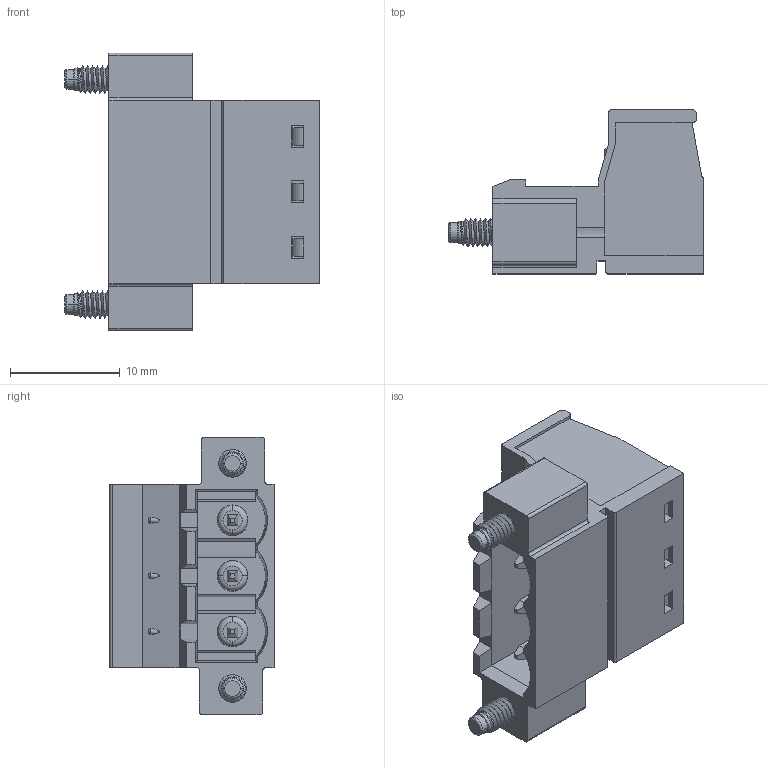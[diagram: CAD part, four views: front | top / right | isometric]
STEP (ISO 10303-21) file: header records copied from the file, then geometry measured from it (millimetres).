
FILE_DESCRIPTION((''),'2;1');
FILE_NAME('V8035152000AG','2017-02-18T',('shqun'),(''),'CREO PARAMETRIC BY PTC INC, 2014500','CREO PARAMETRIC BY PTC INC, 2014500','');
FILE_SCHEMA(('CONFIG_CONTROL_DESIGN'));
Length unit declared in the file: millimetre
Products named in the file (1): V8035152000AG
Bounding box: 23.24 x 15 x 25.37 mm (x, y, z)
Volume: 2267.9 mm3; surface area: 5097 mm2
Topology: 1 solids, 13 shells, 1052 faces, 2765 edges, 1785 vertices
Faces by surface type: plane 625, cylinder 214, bspline 121, cone 45, torus 38, extrusion 6, sphere 3
Entity records: 45320 total; most frequent: CARTESIAN_POINT 20414, ORIENTED_EDGE 5524, DIRECTION 4463, EDGE_CURVE 2762, VERTEX_POINT 1785, VECTOR 1759, LINE 1753, AXIS2_PLACEMENT_3D 1352
